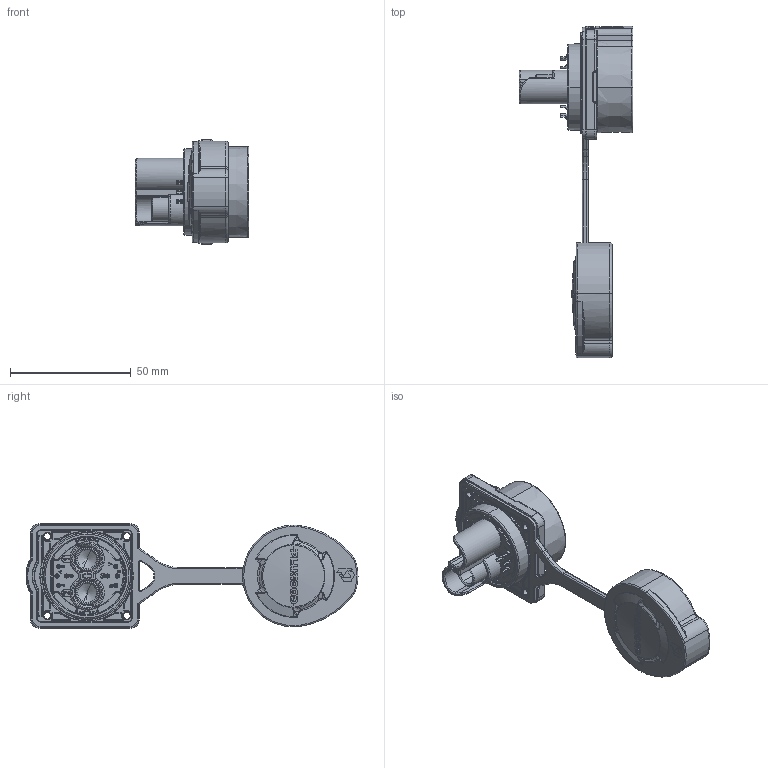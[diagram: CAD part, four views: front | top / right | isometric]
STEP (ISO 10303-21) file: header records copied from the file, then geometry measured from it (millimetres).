
FILE_DESCRIPTION (( 'STEP AP203' ), '1' );
FILE_NAME ('PLG36 2+8芯四孔安装插座正装石头图.STEP', '2026-05-18T12:36:16', ( '微软用户' ), ( '微软中国' ), 'SwSTEP 2.0', 'SolidWorks 2024', '' );
FILE_SCHEMA (( 'CONFIG_CONTROL_DESIGN' ));
Length unit declared in the file: millimetre
Products named in the file (1): PLG36 2+8芯四孔安装插座正装石头图
Bounding box: 47.2 x 137.62 x 43.5 mm (x, y, z)
Volume: 36713.9 mm3; surface area: 29231.2 mm2
Topology: 5 solids, 7 shells, 2387 faces, 6117 edges, 3725 vertices
Faces by surface type: plane 693, cylinder 634, torus 510, bspline 382, cone 135, sphere 33
Entity records: 87974 total; most frequent: CARTESIAN_POINT 32713, ORIENTED_EDGE 12122, DIRECTION 10984, EDGE_CURVE 6061, AXIS2_PLACEMENT_3D 4402, VERTEX_POINT 3717, EDGE_LOOP 2532, CIRCLE 2396
